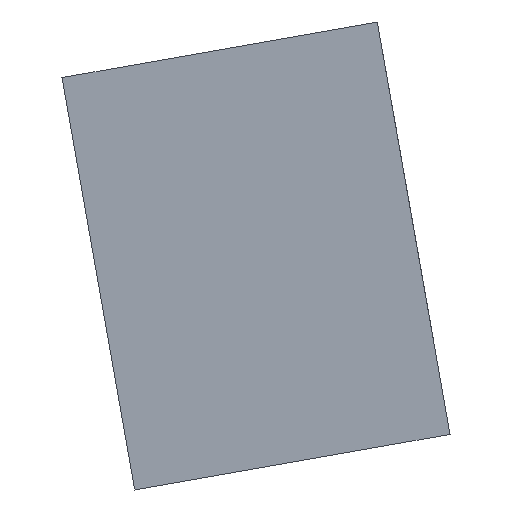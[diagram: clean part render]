
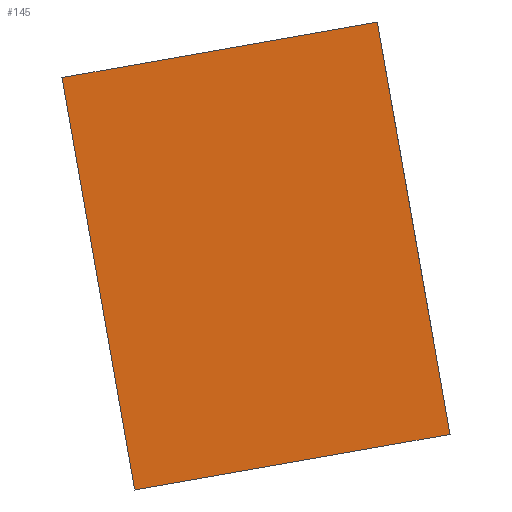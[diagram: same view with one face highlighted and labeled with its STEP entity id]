
A CAD part, left-side view. The second image highlights one B-rep face of the part: STEP entity #145.
In plain terms, the highlighted planar face has unit normal (-1, 0, 0).
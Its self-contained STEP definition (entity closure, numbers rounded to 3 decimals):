
#27=CARTESIAN_POINT('',(-617.,5.382,155.217));
#28=VERTEX_POINT('',#27);
#45=CARTESIAN_POINT('',(-617.,-7.42,157.475));
#46=VERTEX_POINT('',#45);
#53=CARTESIAN_POINT('',(-617.,5.382,155.217));
#54=DIRECTION('',(0.0,-0.985,0.174));
#55=VECTOR('',#54,1.);
#56=LINE('',#53,#55);
#57=EDGE_CURVE('',#28,#46,#56,.T.);
#98=CARTESIAN_POINT('',(-617.,8.334,171.959));
#99=VERTEX_POINT('',#98);
#106=CARTESIAN_POINT('',(-617.,-4.468,174.216));
#107=VERTEX_POINT('',#106);
#108=CARTESIAN_POINT('',(-617.,8.334,171.959));
#109=DIRECTION('',(0.0,-0.985,0.174));
#110=VECTOR('',#109,1.);
#111=LINE('',#108,#110);
#112=EDGE_CURVE('',#99,#107,#111,.T.);
#124=CARTESIAN_POINT('',(-617.,8.334,171.959));
#125=DIRECTION('',(-1.0,0.0,0.0));
#126=DIRECTION('',(0.0,-0.174,-0.985));
#127=AXIS2_PLACEMENT_3D('',#124,#125,#126);
#128=PLANE('',#127);
#129=CARTESIAN_POINT('',(-617.,8.334,171.959));
#130=DIRECTION('',(0.,-0.174,-0.985));
#131=VECTOR('',#130,1.);
#132=LINE('',#129,#131);
#133=EDGE_CURVE('',#99,#28,#132,.T.);
#134=ORIENTED_EDGE('',*,*,#133,.T.);
#135=ORIENTED_EDGE('',*,*,#57,.T.);
#136=CARTESIAN_POINT('',(-617.,-4.468,174.216));
#137=DIRECTION('',(0.,-0.174,-0.985));
#138=VECTOR('',#137,1.);
#139=LINE('',#136,#138);
#140=EDGE_CURVE('',#107,#46,#139,.T.);
#141=ORIENTED_EDGE('',*,*,#140,.F.);
#142=ORIENTED_EDGE('',*,*,#112,.F.);
#143=EDGE_LOOP('',(#134,#135,#141,#142));
#144=FACE_BOUND('',#143,.T.);
#145=ADVANCED_FACE('',(#144),#128,.T.);
